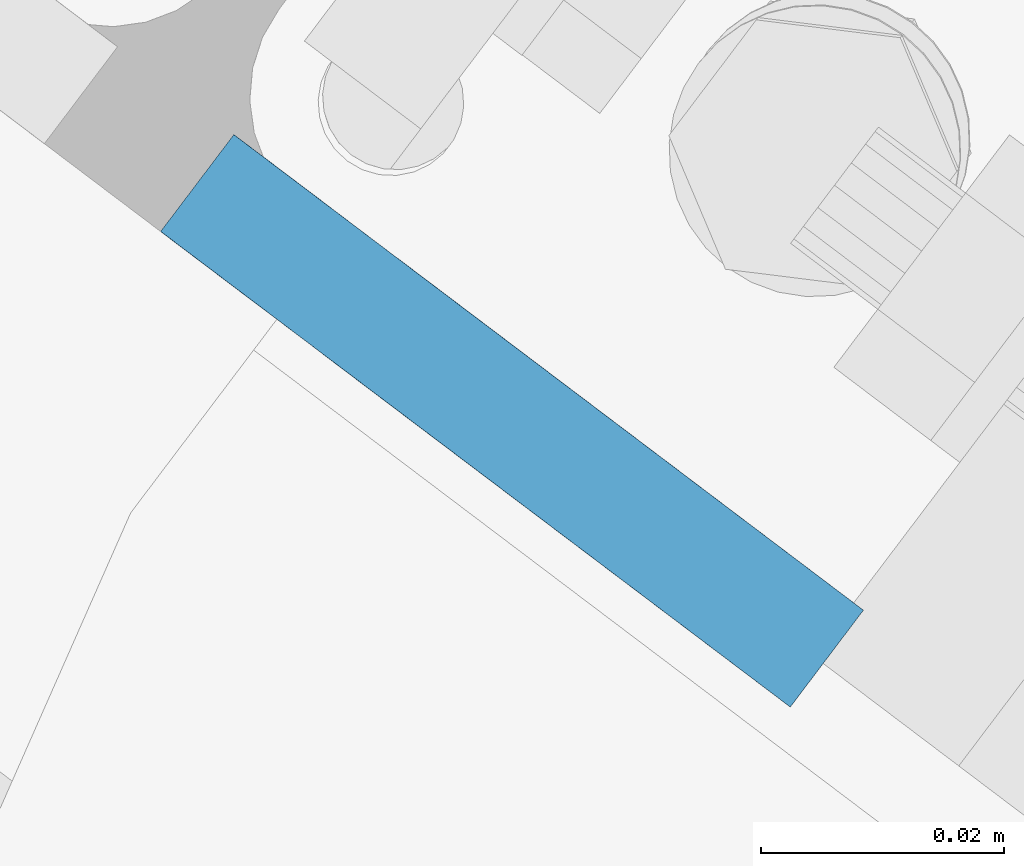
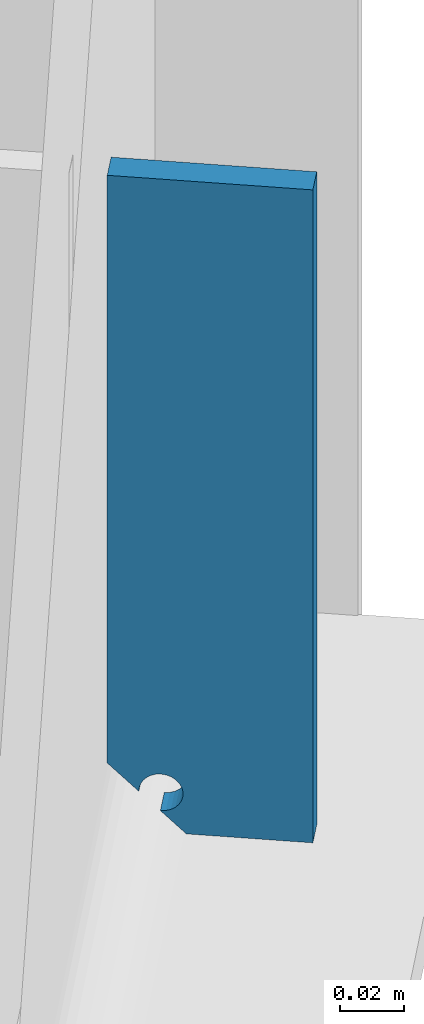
# One storey, part 69 of 476: 1 plate, 2 openings.
"""IFC2X3 building model written with IfcOpenShell, lengths in millimetres."""

from ifc_helpers import new_model, entity, si_unit, converted_unit, point, frame, frame_2d, origin, origin_with_axes, place, context, project, spatial, polyline, circle_curve, line_curve, trimmed, segment, composite_curve, circle, outline, extrude, material, layer, layer_set, element, save


model = new_model("IFC2X3")

# Units and contexts
model_context = context("Model", 3, precision=1e-09, world=origin_with_axes())
ifc_project = project(units=[si_unit("LENGTHUNIT", "METRE", prefix="MILLI"), si_unit("AREAUNIT", "SQUARE_METRE"), si_unit("VOLUMEUNIT", "CUBIC_METRE"), converted_unit("PLANEANGLEUNIT", "DEGREE", entity("IfcPlaneAngleMeasure", 0.01745329), si_unit("PLANEANGLEUNIT", "RADIAN"), dimensions=[0, 0, 0, 0, 0, 0, 0])], contexts=[model_context])

# Site, building, storey
site_placement = place(None, origin_with_axes())
site = spatial("IfcSite", under=ifc_project, at=site_placement, Name="mKR Teilneubau & Sanierung BA1 - Ostfildern", CompositionType="ELEMENT")
building_placement = place(site_placement, origin_with_axes())
building = spatial("IfcBuilding", under=site, at=building_placement, Name="Struktur 1", CompositionType="ELEMENT")
storey_placement = place(building_placement, origin_with_axes())
storey = spatial("IfcBuildingStorey", under=building, at=storey_placement, Name="Default Storey", CompositionType="ELEMENT", Elevation=0.0)

# Plate, openings
ifc_material = material(Name="S235JR")
ifc_layer = layer(ifc_material, 10.0)
ifc_layer_set = layer_set([ifc_layer], Name="S235JR")
plate_placement = place(None, frame((16454.078091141, 5014.222820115, 5107.553116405), z_axis=(-0.602734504, -0.797941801, 0.0), x_axis=(0.797941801, -0.602734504, 0.0)))
plate = element("IfcPlate", 1, at=plate_placement, inside=storey, material=ifc_layer_set, Name="Stiffener#2", ObjectType="Stiffener#2", context=model_context, shape_type="SweptSolid", body=[
    extrude(outline(polyline([(0.0, 0.0), (65.0, 0.0), (65.0, 250.0), (0.0, 250.0), (0.0, 0.0)])), origin_with_axes(), (0.0, 0.0, 1.0), 10.0),
])
opening_1_placement = place(plate_placement, frame((0.0, 0.0, -0.01), z_axis=(0.0, 0.0, 1.0), x_axis=(1.0, 0.0, 0.0)))
element("IfcOpeningElement", 2, at=opening_1_placement, cuts=plate, ObjectType="Opening", context=model_context, shape_type="SweptSolid", body=[
    extrude(outline(composite_curve([segment(trimmed(line_curve((0.0, 0.0), (1.0, 0.0), 25.0), [point((0.0, 0.0))], [point((25.0, 0.0))], True, "CARTESIAN"), True, "CONTINUOUS"), segment(trimmed(circle_curve(frame_2d((25.0, 25.0), x_axis=(-1.0, 0.0)), 25.0), [point((25.0, 0.0))], [point((0.0, 25.0))], False, "CARTESIAN"), True, "CONTINUOUS"), segment(trimmed(line_curve((0.0, 25.0), (0.0, -1.0), 25.0), [point((0.0, 25.0))], [point((0.0, 0.0))], True, "CARTESIAN"), True, "CONTINUOUS")], self_intersect=False)), origin(), (0.0, 0.0, 1.0), 10.02),
])
opening_2_placement = place(plate_placement, frame((24.0, 22.198767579, -0.5), z_axis=(0.0, 0.0, 1.0), x_axis=(0.0, 1.0, 0.0)))
element("IfcOpeningElement", 3, at=opening_2_placement, cuts=plate, ObjectType="Opening", context=model_context, shape_type="SweptSolid", body=[
    extrude(circle(Radius=7.001, at=frame_2d((-7.0, 7.0), x_axis=(1.0, 0.0))), origin(), (0.0, 0.0, 1.0), 11.0),
])

save(model, "model.ifc")
